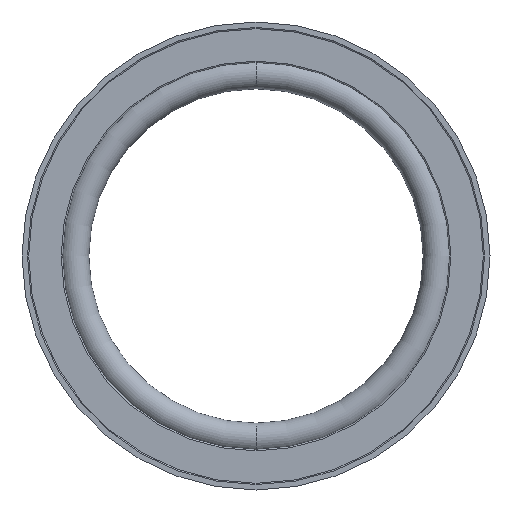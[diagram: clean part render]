
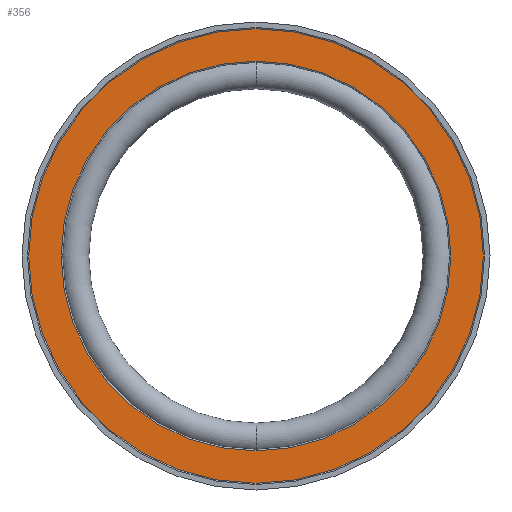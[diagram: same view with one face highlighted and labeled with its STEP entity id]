
A CAD part, front view. The second image highlights one B-rep face of the part: STEP entity #356.
In plain terms, the highlighted planar face has unit normal (0, -1, 0).
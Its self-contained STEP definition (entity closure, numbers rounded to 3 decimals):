
#43 = DIRECTION ( 'NONE',  ( 0., 1., 0. ) ) ;
#110 = CARTESIAN_POINT ( 'NONE',  ( 0., -1.95, 0. ) ) ;
#113 = CARTESIAN_POINT ( 'NONE',  ( 0., -1.95, -32.056 ) ) ;
#127 = VERTEX_POINT ( 'NONE', #244 ) ;
#136 = FACE_OUTER_BOUND ( 'NONE', #226, .T. ) ;
#165 = ORIENTED_EDGE ( 'NONE', *, *, #773, .T. ) ;
#174 = CARTESIAN_POINT ( 'NONE',  ( 0., -1.95, 32.056 ) ) ;
#178 = VERTEX_POINT ( 'NONE', #174 ) ;
#181 = CARTESIAN_POINT ( 'NONE',  ( -37.6, -1.95, 0. ) ) ;
#185 = FACE_BOUND ( 'NONE', #419, .T. ) ;
#198 = ORIENTED_EDGE ( 'NONE', *, *, #705, .T. ) ;
#210 = CIRCLE ( 'NONE', #479, 32.056 ) ;
#226 = EDGE_LOOP ( 'NONE', ( #165, #198 ) ) ;
#244 = CARTESIAN_POINT ( 'NONE',  ( 0., -1.95, -37.4 ) ) ;
#273 = AXIS2_PLACEMENT_3D ( 'NONE', #787, #700, #300 ) ;
#300 = DIRECTION ( 'NONE',  ( 0., 0., -1. ) ) ;
#328 = ORIENTED_EDGE ( 'NONE', *, *, #344, .T. ) ;
#336 = DIRECTION ( 'NONE',  ( 0., 0., -1. ) ) ;
#344 = EDGE_CURVE ( 'NONE', #609, #178, #365, .T. ) ;
#356 = ADVANCED_FACE ( 'NONE', ( #136, #185 ), #463, .T. ) ;
#365 = CIRCLE ( 'NONE', #638, 32.056 ) ;
#389 = EDGE_CURVE ( 'NONE', #178, #609, #210, .T. ) ;
#390 = CARTESIAN_POINT ( 'NONE',  ( 0., -1.95, 0. ) ) ;
#419 = EDGE_LOOP ( 'NONE', ( #328, #731 ) ) ;
#463 = PLANE ( 'NONE',  #564 ) ;
#479 = AXIS2_PLACEMENT_3D ( 'NONE', #809, #605, #336 ) ;
#527 = DIRECTION ( 'NONE',  ( 0., 0., -1. ) ) ;
#564 = AXIS2_PLACEMENT_3D ( 'NONE', #181, #661, #527 ) ;
#605 = DIRECTION ( 'NONE',  ( 0., 1., 0. ) ) ;
#609 = VERTEX_POINT ( 'NONE', #113 ) ;
#623 = CIRCLE ( 'NONE', #679, 37.4 ) ;
#638 = AXIS2_PLACEMENT_3D ( 'NONE', #390, #43, #798 ) ;
#642 = DIRECTION ( 'NONE',  ( 0., 0., -1. ) ) ;
#649 = DIRECTION ( 'NONE',  ( 0., -1., 0. ) ) ;
#661 = DIRECTION ( 'NONE',  ( 0., -1., 0. ) ) ;
#672 = VERTEX_POINT ( 'NONE', #870 ) ;
#679 = AXIS2_PLACEMENT_3D ( 'NONE', #110, #649, #642 ) ;
#700 = DIRECTION ( 'NONE',  ( 0., -1., 0. ) ) ;
#705 = EDGE_CURVE ( 'NONE', #672, #127, #623, .T. ) ;
#731 = ORIENTED_EDGE ( 'NONE', *, *, #389, .T. ) ;
#773 = EDGE_CURVE ( 'NONE', #127, #672, #794, .T. ) ;
#787 = CARTESIAN_POINT ( 'NONE',  ( 0., -1.95, 0. ) ) ;
#794 = CIRCLE ( 'NONE', #273, 37.4 ) ;
#798 = DIRECTION ( 'NONE',  ( 0., 0., -1. ) ) ;
#809 = CARTESIAN_POINT ( 'NONE',  ( 0., -1.95, 0. ) ) ;
#870 = CARTESIAN_POINT ( 'NONE',  ( 0., -1.95, 37.4 ) ) ;
